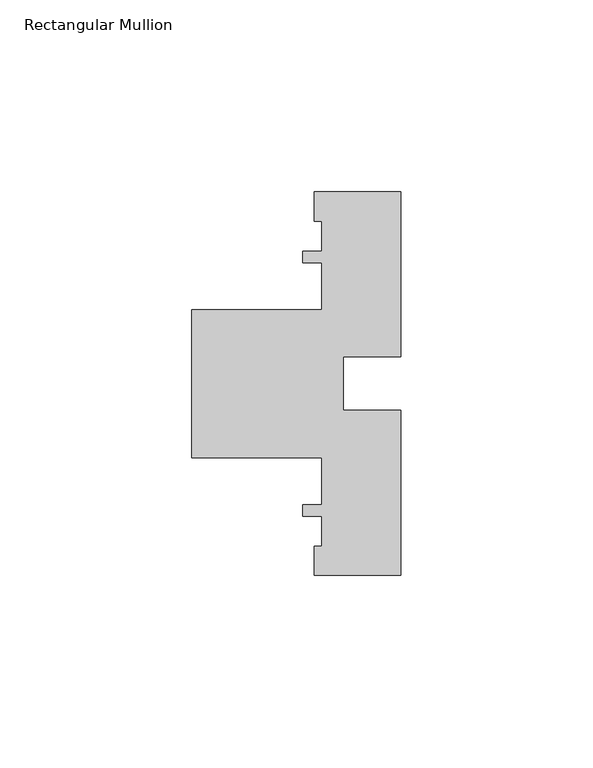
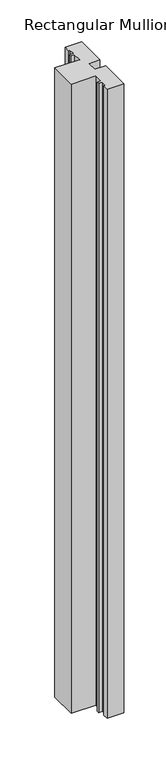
"""IFC4 building model written with IfcOpenShell, lengths in millimetres: member geometry, Rectangular Mullion : Trim-Horizontal-Teknion-Focus-FWSSGH."""

from ifc_helpers import new_model, si_unit, frame, origin, place, context, project, spatial, polyline, outline, extrude, source, transform, mapped, element, save


def rectangular_mullion_2dd43c7a(model_context):
    return source(origin(), model_context, "Body", "SweptSolid", [
        extrude(outline(polyline([(14.4499997, 49.975), (14.4499997, 6.9750005), (-0.5, 6.9750005), (-0.5, -6.9750012), (14.4499997, -6.9750012), (14.4499997, -49.9750006), (-8.1000001, -49.9750006), (-8.1000001, -42.3750012), (-6.0999998, -42.3750012), (-6.0999998, -34.4999995), (-11.0854757, -34.4999995), (-11.0854757, -31.5000008), (-6.0999998, -31.5000008), (-6.0999998, -19.2500002), (-40.0000018, -19.2500002), (-40.0000018, 19.2499996), (-6.0999998, 19.2499996), (-6.0999998, 31.5000002), (-11.0760201, 31.5000002), (-11.0760201, 34.4999988), (-6.0999998, 34.4999988), (-6.0999998, 42.3750005), (-8.1000001, 42.3750005), (-8.1000001, 49.975), (14.4499997, 49.975)])), frame((0.0, 0.0, -914.4), z_axis=(0.0, 0.0, 1.0), x_axis=(1.0, 0.0, 0.0)), (0.0, 0.0, 1.0), 914.4),
    ])


if __name__ == "__main__":
    model = new_model("IFC4")
    model_context = context("Model", 3, world=origin())
    ifc_project = project(units=[si_unit("LENGTHUNIT", "METRE", prefix="MILLI")], contexts=[model_context])
    site = spatial("IfcSite", under=ifc_project)
    building = spatial("IfcBuilding", under=site)
    placement = place(None, origin())
    rectangular_mullion_shape = rectangular_mullion_2dd43c7a(model_context)
    element("IfcMember", 1, ObjectType="Rectangular Mullion : Trim-Horizontal-Teknion-Focus-FWSSGH", at=placement, inside=building, context=model_context, shape_type="MappedRepresentation", body=[
        mapped(rectangular_mullion_shape, transform((0.0, 0.0, 0.0), x_axis=(1.0, 0.0, 0.0), y_axis=(0.0, 1.0, 0.0), z_axis=(0.0, 0.0, 1.0))),
    ])
    save(model, "model.ifc")
